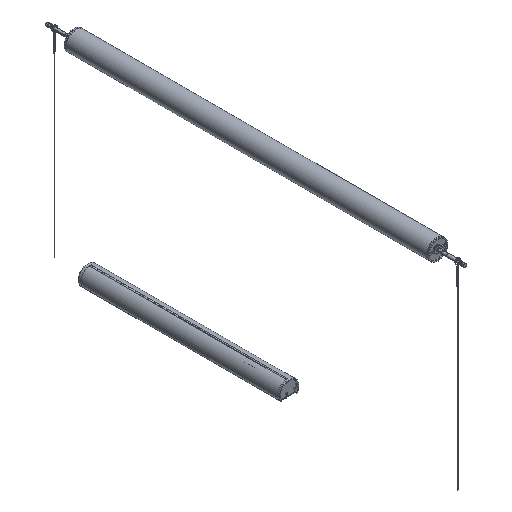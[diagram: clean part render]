
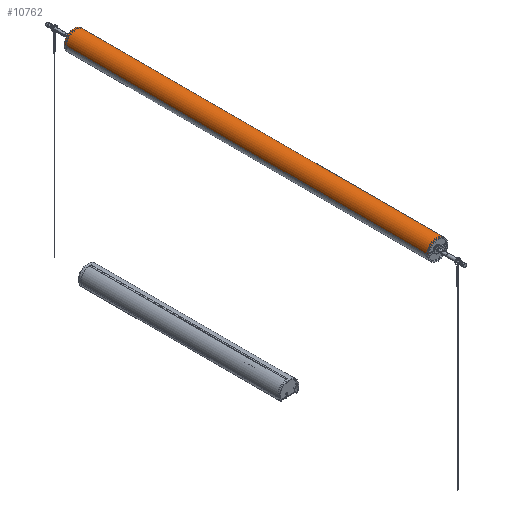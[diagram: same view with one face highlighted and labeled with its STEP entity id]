
A CAD part, isometric view. The second image highlights one B-rep face of the part: STEP entity #10762.
In plain terms, the highlighted cylindrical face has radius 25.25 mm (diameter 50.5 mm), a partial arc.
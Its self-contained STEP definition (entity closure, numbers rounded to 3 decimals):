
#10618=CARTESIAN_POINT('',(0.,-470.,0.));
#10619=DIRECTION('',(0.,1.,0.));
#10620=DIRECTION('',(-1.,0.,0.));
#10621=AXIS2_PLACEMENT_3D('',#10618,#10619,#10620);
#10646=CARTESIAN_POINT('',(0.,470.,0.));
#10647=DIRECTION('',(0.,1.,0.));
#10648=DIRECTION('',(-1.,0.,0.));
#10649=AXIS2_PLACEMENT_3D('',#10646,#10647,#10648);
#10651=DIRECTION('',(0.,1.,0.));
#10652=VECTOR('',#10651,940.);
#10653=CARTESIAN_POINT('',(25.25,-470.,0.));
#10654=LINE('',#10653,#10652);
#10655=DIRECTION('',(0.,1.,0.));
#10656=VECTOR('',#10655,940.);
#10657=CARTESIAN_POINT('',(-25.25,-470.,0.));
#10658=LINE('',#10657,#10656);
#10663=CARTESIAN_POINT('',(-25.25,-470.,0.));
#10664=CARTESIAN_POINT('',(25.25,-470.,0.));
#10665=VERTEX_POINT('',#10663);
#10666=VERTEX_POINT('',#10664);
#10671=CARTESIAN_POINT('',(-25.25,470.,0.));
#10672=CARTESIAN_POINT('',(25.25,470.,0.));
#10673=VERTEX_POINT('',#10671);
#10674=VERTEX_POINT('',#10672);
#10751=CARTESIAN_POINT('',(0.,-470.,0.));
#10752=DIRECTION('',(0.,1.,0.));
#10753=DIRECTION('',(1.,0.,0.));
#10754=AXIS2_PLACEMENT_3D('',#10751,#10752,#10753);
#10755=CYLINDRICAL_SURFACE('',#10754,25.25);
#10756=ORIENTED_EDGE('',*,*,#10682,.F.);
#10757=ORIENTED_EDGE('',*,*,#10746,.T.);
#10758=ORIENTED_EDGE('',*,*,#10728,.T.);
#10759=ORIENTED_EDGE('',*,*,#10743,.F.);
#10760=EDGE_LOOP('',(#10756,#10757,#10758,#10759));
#10761=FACE_OUTER_BOUND('',#10760,.F.);
#10762=ADVANCED_FACE('',(#10761),#10755,.T.);
#10622=CIRCLE('',#10621,25.25);
#10650=CIRCLE('',#10649,25.25);
#10682=EDGE_CURVE('',#10665,#10666,#10622,.T.);
#10728=EDGE_CURVE('',#10673,#10674,#10650,.T.);
#10743=EDGE_CURVE('',#10666,#10674,#10654,.T.);
#10746=EDGE_CURVE('',#10665,#10673,#10658,.T.);
